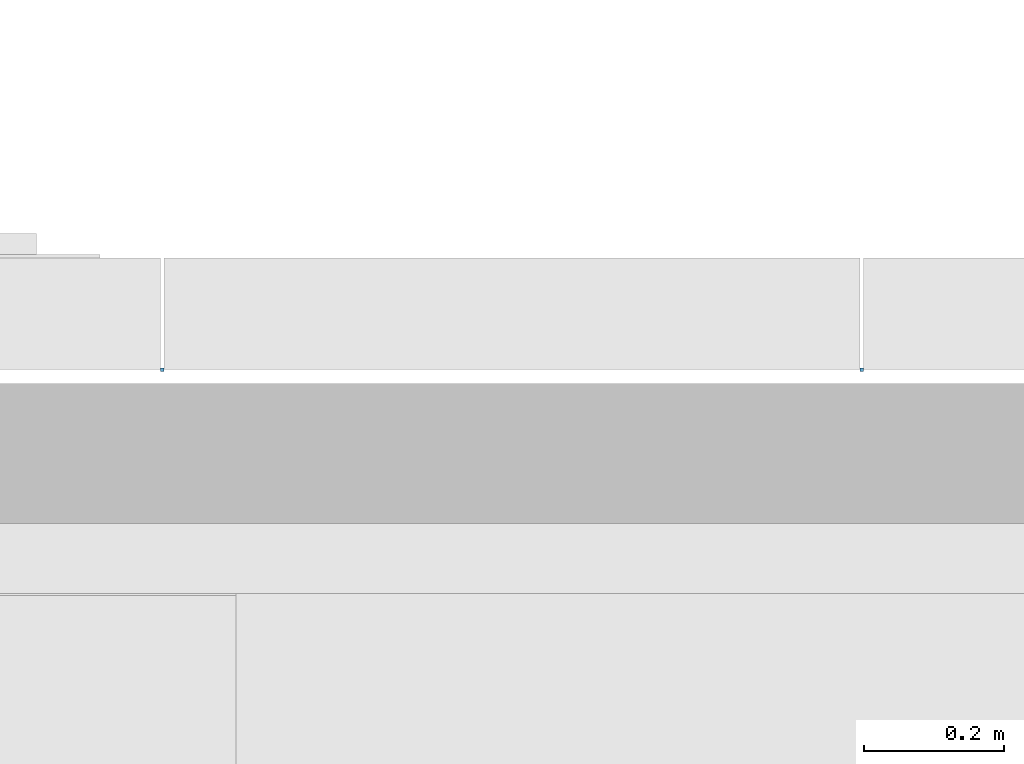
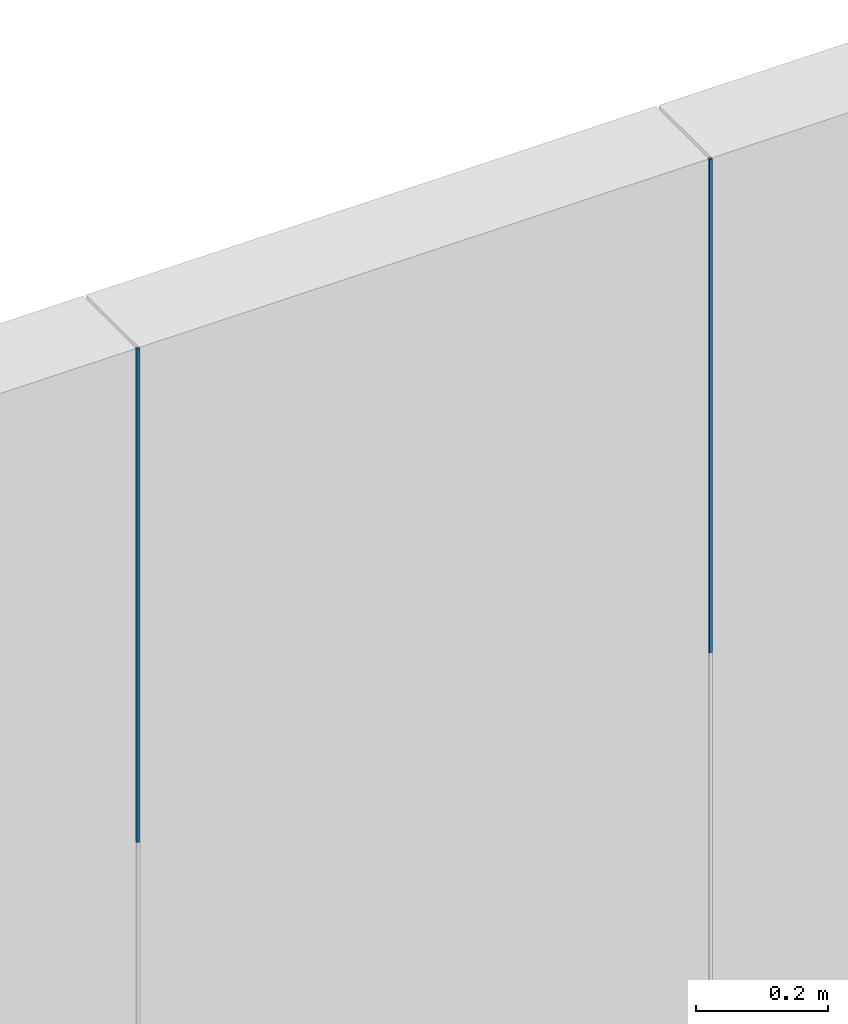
# One storey, part 199 of 302: 2 members, 1 element without a shape of its own.
"""IFC2X3 building model written with IfcOpenShell, lengths in metres."""

from ifc_helpers import new_model, entity, si_unit, converted_unit, derived_unit, direction, frame, frame_2d, origin, place, context, subcontext, project, spatial, rectangle, extrude, source, transform, mapped, material, type_object, type_shapes, element, aggregate, save


model = new_model("IFC2X3")

# Units and contexts
model_context = context("Model", 3, precision=1e-05, world=origin(), true_north=direction((6.12303176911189e-17, 1.0)))
body_context = subcontext(model_context, "Body", "Model", "MODEL_VIEW")
ifc_project = project(units=[si_unit("LENGTHUNIT", "METRE"), si_unit("AREAUNIT", "SQUARE_METRE"), si_unit("VOLUMEUNIT", "CUBIC_METRE"), converted_unit("PLANEANGLEUNIT", "DEGREE", entity("IfcRatioMeasure", 0.0174532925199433), si_unit("PLANEANGLEUNIT", "RADIAN"), dimensions=[0, 0, 0, 0, 0, 0, 0]), si_unit("MASSUNIT", "GRAM", prefix="KILO"), derived_unit("MASSDENSITYUNIT", [(si_unit("MASSUNIT", "GRAM", prefix="KILO"), 1), (si_unit("LENGTHUNIT", "METRE"), -3)]), derived_unit("MOMENTOFINERTIAUNIT", [(si_unit("LENGTHUNIT", "METRE"), 4)]), si_unit("TIMEUNIT", "SECOND"), si_unit("FREQUENCYUNIT", "HERTZ"), si_unit("THERMODYNAMICTEMPERATUREUNIT", "DEGREE_CELSIUS"), derived_unit("THERMALTRANSMITTANCEUNIT", [(si_unit("MASSUNIT", "GRAM", prefix="KILO"), 1), (si_unit("THERMODYNAMICTEMPERATUREUNIT", "KELVIN"), -1), (si_unit("TIMEUNIT", "SECOND"), -3)]), derived_unit("VOLUMETRICFLOWRATEUNIT", [(si_unit("LENGTHUNIT", "METRE"), 3), (si_unit("TIMEUNIT", "SECOND"), -1)]), si_unit("ELECTRICCURRENTUNIT", "AMPERE"), si_unit("ELECTRICVOLTAGEUNIT", "VOLT"), si_unit("POWERUNIT", "WATT"), si_unit("FORCEUNIT", "NEWTON", prefix="KILO"), si_unit("ILLUMINANCEUNIT", "LUX"), si_unit("LUMINOUSFLUXUNIT", "LUMEN"), si_unit("LUMINOUSINTENSITYUNIT", "CANDELA"), derived_unit("USERDEFINED", [(si_unit("MASSUNIT", "GRAM", prefix="KILO"), -1), (si_unit("LENGTHUNIT", "METRE"), -2), (si_unit("TIMEUNIT", "SECOND"), 3), (si_unit("LUMINOUSFLUXUNIT", "LUMEN"), 1)]), derived_unit("LINEARVELOCITYUNIT", [(si_unit("LENGTHUNIT", "METRE"), 1), (si_unit("TIMEUNIT", "SECOND"), -1)]), si_unit("PRESSUREUNIT", "PASCAL"), derived_unit("USERDEFINED", [(si_unit("LENGTHUNIT", "METRE"), -2), (si_unit("MASSUNIT", "GRAM", prefix="KILO"), 1), (si_unit("TIMEUNIT", "SECOND"), -2)]), derived_unit("LINEARFORCEUNIT", [(si_unit("MASSUNIT", "GRAM", prefix="KILO"), 1), (si_unit("LENGTHUNIT", "METRE"), 1), (si_unit("TIMEUNIT", "SECOND"), -2), (si_unit("LENGTHUNIT", "METRE"), -1)]), derived_unit("PLANARFORCEUNIT", [(si_unit("MASSUNIT", "GRAM", prefix="KILO"), 1), (si_unit("LENGTHUNIT", "METRE"), 1), (si_unit("TIMEUNIT", "SECOND"), -2), (si_unit("LENGTHUNIT", "METRE"), -2)])], contexts=[model_context])

# Site, building, storey
site_placement = place(None, origin())
site = spatial("IfcSite", under=ifc_project, at=site_placement, Name="Default", CompositionType="ELEMENT")
building_placement = place(site_placement, origin())
building = spatial("IfcBuilding", under=site, at=building_placement, CompositionType="ELEMENT")
storey_placement = place(building_placement, frame((0.0, 0.0, -1.3)))
storey = spatial("IfcBuildingStorey", under=building, at=storey_placement, Name="00_EG", CompositionType="ELEMENT", Elevation=-1.3)

# Curtain wall, members
curtain_wall_type = type_object("IfcCurtainWallType", Name="Fassade:Curtain Wall 1", PredefinedType="NOTDEFINED")
curtain_wall_placement = place(storey_placement, frame((0.0, 0.0, 1.3)))
curtain_wall = element("IfcCurtainWall", 1, at=curtain_wall_placement, inside=storey, type_object=curtain_wall_type, Name="Fassade:Curtain Wall 1", ObjectType="Fassade:Curtain Wall 1")
ifc_material = material(Name="Aluminium")
member_type = type_object("IfcMemberType", Name="Rectangular Mullion:Paneele Spalt", PredefinedType="MULLION", material=ifc_material)
shared_shape = source(origin(), body_context, "Body", "SweptSolid", [
    extrude(rectangle(XDim=0.005, YDim=0.005, at=frame_2d((0.0, -6.50521303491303e-19), x_axis=(1.0, 0.0))), frame((0.0, 0.0, -0.911252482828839), z_axis=(0.0, 0.0, 1.0), x_axis=(0.0, -1.0, 0.0)), (0.0, 0.0, 1.0), 0.911252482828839),
])
type_shapes(member_type, [shared_shape])
member_1_placement = place(storey_placement, frame((-218.610111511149, 45.578088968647, 10.2096475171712), z_axis=(0.0, 0.0, -1.0), x_axis=(-1.0, 0.0, 0.0)))
member_1 = element("IfcMember", 2, at=member_1_placement, type_object=member_type, material=ifc_material, Name="Rectangular Mullion:Paneele Spalt", ObjectType="Rectangular Mullion:Paneele Spalt", context=body_context, shape_type="MappedRepresentation", body=[
    mapped(shared_shape, transform((0.0, 0.0, 0.0), scale=1.0)),
])
member_2_placement = place(storey_placement, frame((-219.610111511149, 45.578088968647, 10.2096475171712), z_axis=(0.0, 0.0, -1.0), x_axis=(-1.0, 0.0, 0.0)))
member_2 = element("IfcMember", 3, at=member_2_placement, type_object=member_type, material=ifc_material, Name="Rectangular Mullion:Paneele Spalt", ObjectType="Rectangular Mullion:Paneele Spalt", context=body_context, shape_type="MappedRepresentation", body=[
    mapped(shared_shape, transform((0.0, 0.0, 0.0), scale=1.0)),
])
aggregate(curtain_wall, [member_1, member_2])

save(model, "model.ifc")
